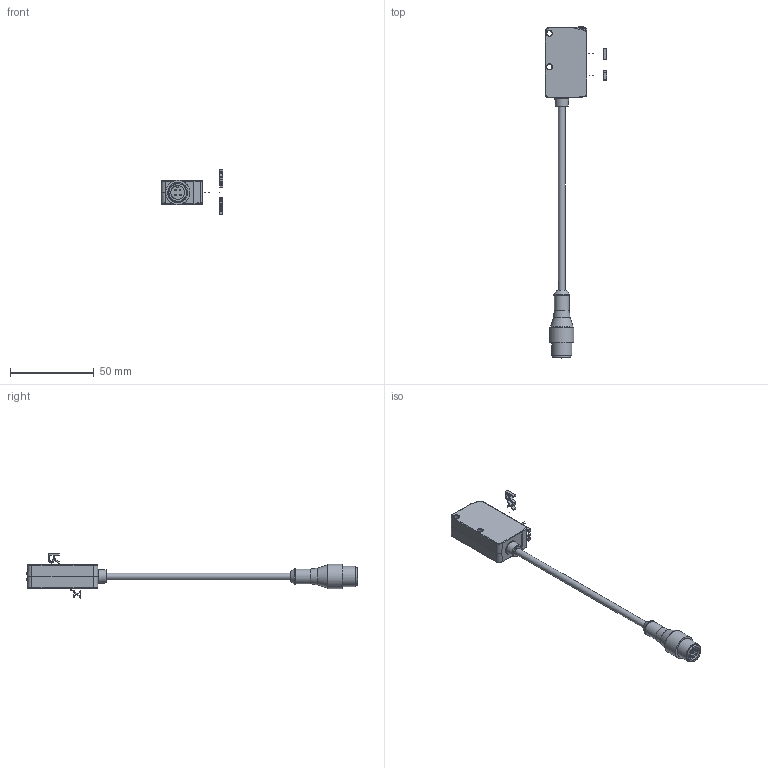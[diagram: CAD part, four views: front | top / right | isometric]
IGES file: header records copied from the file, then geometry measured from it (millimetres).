
Start section: JAMA-IS VERSION  1.0
Global section: file name: D:\CS\IDF\TESTPCB\DSD-0191N.igs; native system: NX V12.0; preprocessor: SIEMENS PLM Software NX 12.0; date: 200921.091115; units: millimetre
Bounding box: 37 x 198.3 x 26.68 mm (x, y, z)
Surface area: 8738 mm2 (no closed solid volume)
Topology: 0 solids, 0 shells, 474 faces, 2963 edges, 2884 vertices
Faces by surface type: bspline 474
